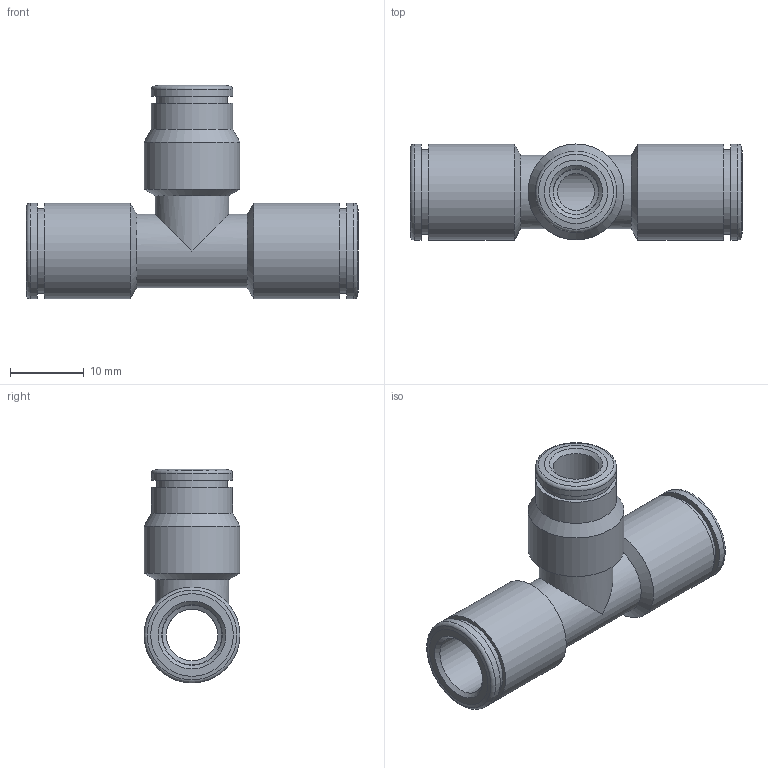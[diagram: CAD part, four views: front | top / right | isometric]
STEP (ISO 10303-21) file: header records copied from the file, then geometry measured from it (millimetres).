
FILE_DESCRIPTION(('Bauteilbeschreibung','HiCAD-Model','HiCAD-STEP-TRANSLATION','Bauteilbeschreibung'),'2;1');
FILE_NAME('B:/ABGLEICH/ZEICHNUNGEN/STEP FÜR INTERNET/STEP/200509_IPSO_05_8_6_8.STP','2011-07-25T11:29:16+00:00',('Konstrukteur'),('Konstrukteur Firma GmbH'),' HiCAD neXt 2008, Step 3.1.1401.2J ','HiCAD neXt 2008','confidential');
FILE_SCHEMA(('AUTOMOTIVE_DESIGN { 1 2 10303 214 0 1 1 1 }'));
Length unit declared in the file: millimetre
Products named in the file (5): A00509_IPSO_05_8_6_8; DR6_1_NEU; DR8_1_NEU; DR8010NEU; R200509_N
Assembly tree (4 placements, depth 2):
  A00509_IPSO_05_8_6_8
    DR6_1_NEU
    DR8_1_NEU
    DR8010NEU
    R200509_N
Bounding box: 45 x 13 x 29 mm (x, y, z)
Volume: 3522.9 mm3; surface area: 5837.4 mm2
Topology: 4 solids, 4 shells, 75 faces, 143 edges, 83 vertices
Faces by surface type: cylinder 29, cone 28, plane 15, torus 3
Full cylindrical faces by diameter (mm): 5 x1, 6.1 x1, 6.2 x1, 7 x1, 8.1 x2, 8.2 x2, 8.3 x1, 9 x1, 9.5 x1, 9.6 x1, 10 x2, 10.1 x2, 11 x4, 11.5 x2, 11.6 x2, 13 x5
Entity records: 2735 total; most frequent: CARTESIAN_POINT 916, DIRECTION 318, AXIS2_PLACEMENT_3D 159, ORIENTED_EDGE 154, EDGE_LOOP 152, COLOUR_RGB 80, PRESENTATION_STYLE_ASSIGNMENT 80, EDGE_CURVE 77
